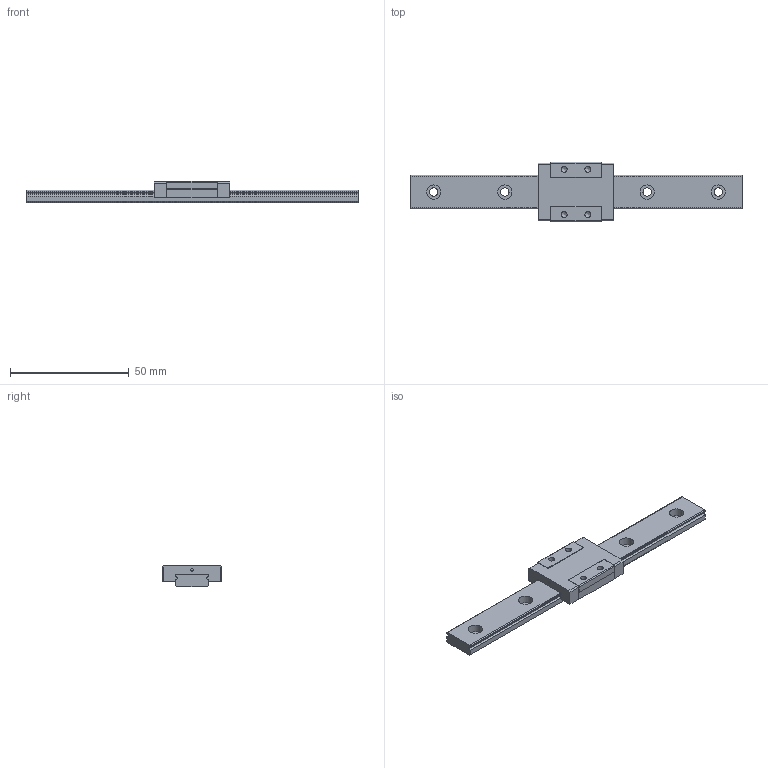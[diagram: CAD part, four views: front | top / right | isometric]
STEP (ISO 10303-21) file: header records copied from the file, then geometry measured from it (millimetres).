
FILE_DESCRIPTION((''),'2;1');
FILE_NAME('C:\Documents and Settings\土屋\My Documents\土屋移動用フォルダ\製品 (図面)\カタログ用3D\リニアガイド\EGM-W\EGM7W.stp','2015-02-21T13:15:24',('y'),(''),'Autodesk Inventor 11','Autodesk Inventor 11','');
FILE_SCHEMA(('AUTOMOTIVE_DESIGN { 1 0 10303 214 1 1 1 1 }'));
Length unit declared in the file: millimetre
Products named in the file (3): EGM7W; EGM7Wレール; EGM7Wベアリング
Assembly tree (2 placements, depth 2):
  EGM7W
    EGM7Wレール
    EGM7Wベアリング
Bounding box: 140 x 25 x 9 mm (x, y, z)
Volume: 13239.5 mm3; surface area: 8748.5 mm2
Topology: 2 solids, 2 shells, 93 faces, 244 edges, 162 vertices
Faces by surface type: plane 48, bspline 25, cylinder 20
Full cylindrical faces by diameter (mm): 1.1 x1
Entity records: 3045 total; most frequent: CARTESIAN_POINT 809, DIRECTION 434, ORIENTED_EDGE 432, EDGE_CURVE 216, VERTEX_POINT 154, AXIS2_PLACEMENT_3D 145, VECTOR 144, LINE 144
